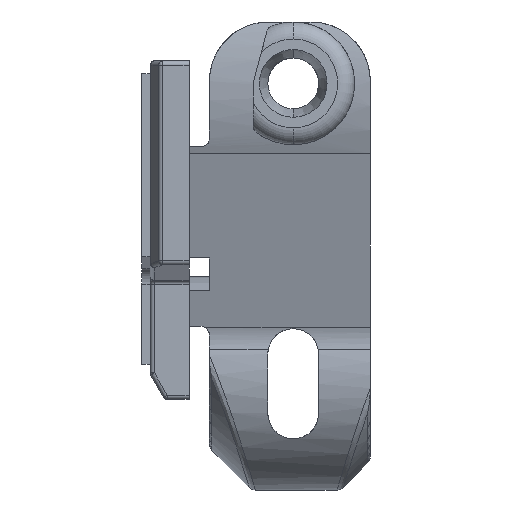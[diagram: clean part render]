
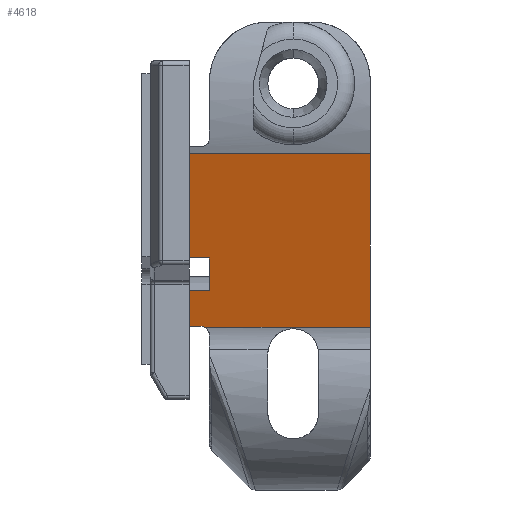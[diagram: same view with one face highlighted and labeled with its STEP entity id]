
A CAD part, left-side view. The second image highlights one B-rep face of the part: STEP entity #4618.
In plain terms, the highlighted planar face has unit normal (-0.962, 0, -0.274).
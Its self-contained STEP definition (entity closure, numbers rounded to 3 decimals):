
#577 = CARTESIAN_POINT ( 'NONE',  ( -20.428, 0., 9.129 ) ) ;
#1466 = DIRECTION ( 'NONE',  ( 0.274, 0., -0.962 ) ) ;
#1467 = VECTOR ( 'NONE', #1466, 1000. ) ;
#1475 = CARTESIAN_POINT ( 'NONE',  ( -20.428, 0., 9.129 ) ) ;
#1476 = LINE ( 'NONE', #1475, #1467 ) ;
#1526 = DIRECTION ( 'NONE',  ( 0., 1., 0. ) ) ;
#1527 = VECTOR ( 'NONE', #1526, 1000. ) ;
#1528 = CARTESIAN_POINT ( 'NONE',  ( -20.428, -21.4, 9.129 ) ) ;
#1529 = LINE ( 'NONE', #1528, #1527 ) ;
#1575 = CARTESIAN_POINT ( 'NONE',  ( -20.428, -21.4, 9.129 ) ) ;
#1654 = CARTESIAN_POINT ( 'NONE',  ( -16.919, 0., -3.204 ) ) ;
#2141 = CARTESIAN_POINT ( 'NONE',  ( -14.618, 0., -11.29 ) ) ;
#2156 = CARTESIAN_POINT ( 'NONE',  ( -16.919, -2.4, -3.204 ) ) ;
#2205 = DIRECTION ( 'NONE',  ( 0.274, 0., -0.962 ) ) ;
#2262 = CARTESIAN_POINT ( 'NONE',  ( -15.814, 0., -7.084 ) ) ;
#2267 = DIRECTION ( 'NONE',  ( 0.274, 0., -0.962 ) ) ;
#2268 = CARTESIAN_POINT ( 'NONE',  ( -15.814, -2.4, -7.084 ) ) ;
#2275 = CARTESIAN_POINT ( 'NONE',  ( -20.428, -2.4, 9.129 ) ) ;
#2276 = LINE ( 'NONE', #2275, #2285 ) ;
#2285 = VECTOR ( 'NONE', #2267, 1000. ) ;
#2343 = VECTOR ( 'NONE', #2205, 1000. ) ;
#2344 = CARTESIAN_POINT ( 'NONE',  ( -15.814, 0., -7.084 ) ) ;
#2345 = LINE ( 'NONE', #2344, #2343 ) ;
#4435 = ORIENTED_EDGE ( 'NONE', *, *, #4631, .F. ) ;
#4436 = EDGE_CURVE ( 'NONE', #6642, #4591, #12233, .T. ) ;
#4438 = ORIENTED_EDGE ( 'NONE', *, *, #6622, .T. ) ;
#4455 = ORIENTED_EDGE ( 'NONE', *, *, #4593, .T. ) ;
#4567 = ORIENTED_EDGE ( 'NONE', *, *, #4590, .F. ) ;
#4574 = EDGE_CURVE ( 'NONE', #6970, #6979, #9656, .T. ) ;
#4576 = ORIENTED_EDGE ( 'NONE', *, *, #4577, .T. ) ;
#4577 = EDGE_CURVE ( 'NONE', #7039, #4584, #9529, .T. ) ;
#4583 = ORIENTED_EDGE ( 'NONE', *, *, #6683, .T. ) ;
#4584 = VERTEX_POINT ( 'NONE', #9650 ) ;
#4585 = EDGE_LOOP ( 'NONE', ( #4576, #4455, #4435, #4620, #4583, #4438, #4567, #4589, #4630, #4604 ) ) ;
#4589 = ORIENTED_EDGE ( 'NONE', *, *, #6969, .T. ) ;
#4590 = EDGE_CURVE ( 'NONE', #7027, #6751, #9610, .T. ) ;
#4591 = VERTEX_POINT ( 'NONE', #9608 ) ;
#4593 = EDGE_CURVE ( 'NONE', #4584, #4616, #9502, .T. ) ;
#4604 = ORIENTED_EDGE ( 'NONE', *, *, #7014, .T. ) ;
#4616 = VERTEX_POINT ( 'NONE', #9764 ) ;
#4618 = ADVANCED_FACE ( 'NONE', ( #9736 ), #9772, .F. ) ;
#4620 = ORIENTED_EDGE ( 'NONE', *, *, #4436, .F. ) ;
#4630 = ORIENTED_EDGE ( 'NONE', *, *, #4574, .T. ) ;
#4631 = EDGE_CURVE ( 'NONE', #4591, #4616, #9733, .T. ) ;
#6247 = VERTEX_POINT ( 'NONE', #577 ) ;
#6622 = EDGE_CURVE ( 'NONE', #6247, #6751, #1476, .T. ) ;
#6642 = VERTEX_POINT ( 'NONE', #1575 ) ;
#6683 = EDGE_CURVE ( 'NONE', #6642, #6247, #1529, .T. ) ;
#6751 = VERTEX_POINT ( 'NONE', #1654 ) ;
#6969 = EDGE_CURVE ( 'NONE', #7027, #6970, #2276, .T. ) ;
#6970 = VERTEX_POINT ( 'NONE', #2268 ) ;
#6979 = VERTEX_POINT ( 'NONE', #2262 ) ;
#7014 = EDGE_CURVE ( 'NONE', #6979, #7039, #2345, .T. ) ;
#7027 = VERTEX_POINT ( 'NONE', #2156 ) ;
#7039 = VERTEX_POINT ( 'NONE', #2141 ) ;
#9496 = CARTESIAN_POINT ( 'NONE',  ( -14.586, -1.858, -11.401 ) ) ;
#9497 = CARTESIAN_POINT ( 'NONE',  ( -14.607, -1.716, -11.328 ) ) ;
#9498 = CARTESIAN_POINT ( 'NONE',  ( -14.618, -1.56, -11.29 ) ) ;
#9499 = CARTESIAN_POINT ( 'NONE',  ( -14.618, -1.4, -11.29 ) ) ;
#9502 =( BOUNDED_CURVE ( )  B_SPLINE_CURVE ( 3, ( #9499, #9498, #9497, #9496 ),
 .UNSPECIFIED., .F., .T. ) 
 B_SPLINE_CURVE_WITH_KNOTS ( ( 4, 4 ),
 ( 3.142, 3.618 ),
 .UNSPECIFIED. ) 
 CURVE ( )  GEOMETRIC_REPRESENTATION_ITEM ( )  RATIONAL_B_SPLINE_CURVE ( ( 1., 0.981, 0.981, 1. ) ) 
 REPRESENTATION_ITEM ( '' )  );
#9507 = DIRECTION ( 'NONE',  ( 0., 1., 0. ) ) ;
#9512 = VECTOR ( 'NONE', #9507, 1000. ) ;
#9528 = CARTESIAN_POINT ( 'NONE',  ( -14.618, -500000., -11.29 ) ) ;
#9529 = LINE ( 'NONE', #9528, #9612 ) ;
#9608 = CARTESIAN_POINT ( 'NONE',  ( -14.586, -21.4, -11.401 ) ) ;
#9609 = CARTESIAN_POINT ( 'NONE',  ( -16.919, -500000., -3.204 ) ) ;
#9610 = LINE ( 'NONE', #9609, #9512 ) ;
#9611 = DIRECTION ( 'NONE',  ( 0., -1., 0. ) ) ;
#9612 = VECTOR ( 'NONE', #9611, 1000. ) ;
#9650 = CARTESIAN_POINT ( 'NONE',  ( -14.618, -1.4, -11.29 ) ) ;
#9653 = DIRECTION ( 'NONE',  ( 0., 1., 0. ) ) ;
#9655 = CARTESIAN_POINT ( 'NONE',  ( -15.814, -500000., -7.084 ) ) ;
#9656 = LINE ( 'NONE', #9655, #9658 ) ;
#9658 = VECTOR ( 'NONE', #9653, 1000. ) ;
#9733 = LINE ( 'NONE', #9778, #9777 ) ;
#9736 = FACE_OUTER_BOUND ( 'NONE', #4585, .T. ) ;
#9757 = DIRECTION ( 'NONE',  ( 0., 1., 0. ) ) ;
#9764 = CARTESIAN_POINT ( 'NONE',  ( -14.586, -1.858, -11.401 ) ) ;
#9771 = AXIS2_PLACEMENT_3D ( 'NONE', #9797, #9796, #9776 ) ;
#9772 = PLANE ( 'NONE',  #9771 ) ;
#9776 = DIRECTION ( 'NONE',  ( 0.274, 0., -0.962 ) ) ;
#9777 = VECTOR ( 'NONE', #9757, 1000. ) ;
#9778 = CARTESIAN_POINT ( 'NONE',  ( -14.586, -500000., -11.401 ) ) ;
#9796 = DIRECTION ( 'NONE',  ( 0.962, 0., 0.274 ) ) ;
#9797 = CARTESIAN_POINT ( 'NONE',  ( -15.814, -500000., -7.084 ) ) ;
#12207 = DIRECTION ( 'NONE',  ( 0.274, 0., -0.962 ) ) ;
#12231 = VECTOR ( 'NONE', #12207, 1000. ) ;
#12232 = CARTESIAN_POINT ( 'NONE',  ( -20.428, -21.4, 9.129 ) ) ;
#12233 = LINE ( 'NONE', #12232, #12231 ) ;
